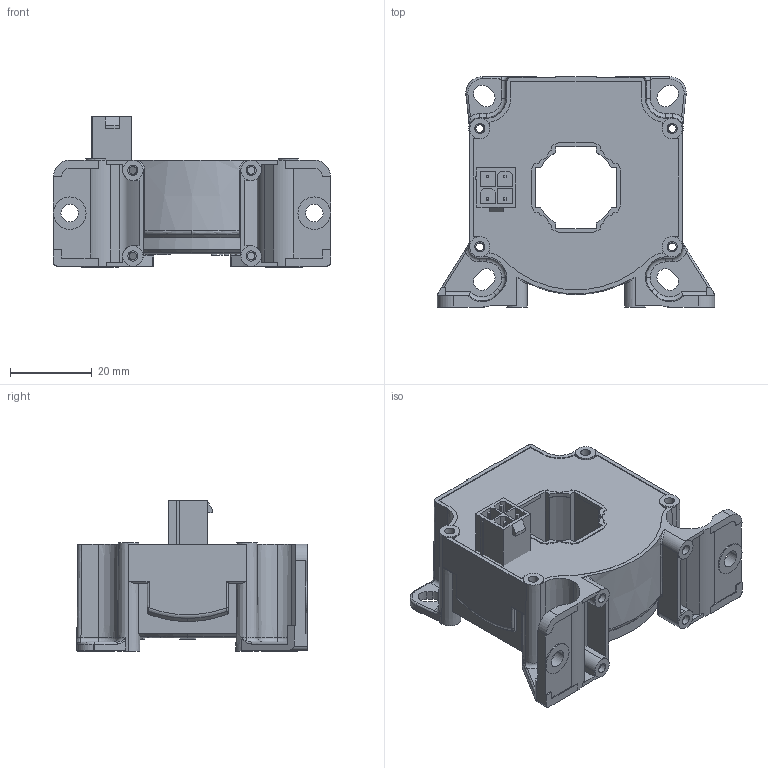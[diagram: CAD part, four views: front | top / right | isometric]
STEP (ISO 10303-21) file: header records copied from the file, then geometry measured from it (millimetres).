
FILE_DESCRIPTION(('CoCreate Modeling STEP Export'),'2;1');
FILE_NAME('LF 305-S_SP10_blackbox.stp','2009-03-16T15:29:26',(''),(''),'CoCreate Modeling STEP processor for AP214 (Solid Model)','CoCreate Modeling 16.00A 16-Aug-2008 (C) Parametric Technology GmbH','');
FILE_SCHEMA(('AUTOMOTIVE_DESIGN { 1 0 10303 214 1 1 1 1 }'));
Length unit declared in the file: millimetre
Products named in the file (5): Mini-fit-Jr; boitier; axon; boitier_blackbox; LF305-S_SP10_blackbox
Assembly tree (4 placements, depth 3):
  LF305-S_SP10_blackbox
    boitier_blackbox
      axon
      boitier
    Mini-fit-Jr
Bounding box: 68 x 56.53 x 37 mm (x, y, z)
Volume: 49679 mm3; surface area: 21270.3 mm2
Topology: 3 solids, 3 shells, 1085 faces, 2961 edges, 1938 vertices
Faces by surface type: plane 722, cylinder 203, cone 63, bspline 56, extrusion 22, torus 19
Entity records: 41709 total; most frequent: CARTESIAN_POINT 15080, ORIENTED_EDGE 5918, DIRECTION 4714, EDGE_CURVE 2959, VECTOR 2162, LINE 2140, VERTEX_POINT 1938, AXIS2_PLACEMENT_3D 1276
